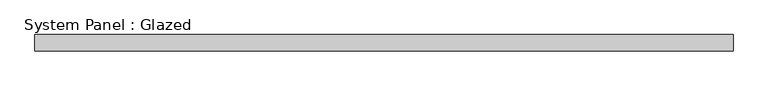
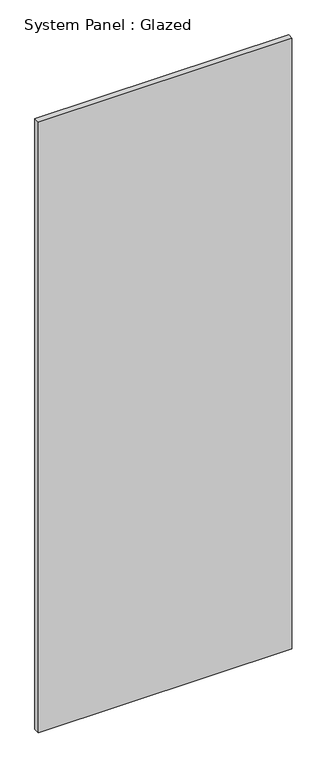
"""IFC4 building model written with IfcOpenShell, lengths in millimetres: plate geometry, System Panel : Glazed."""

from ifc_helpers import new_model, si_unit, origin, origin_with_axes, place, context, project, spatial, polyline, outline, extrude, source, transform, mapped, element, save


def system_panel_glazed_3cde0528(model_context):
    return source(origin(), model_context, "Body", "SweptSolid", [
        extrude(outline(polyline([(550.0000002, 19.05), (-550.0000002, 19.05), (-550.0000002, 44.45), (550.0000002, 44.45), (550.0000002, 19.05)])), origin_with_axes(), (0.0, 0.0, 1.0), 2800.0),
    ])


if __name__ == "__main__":
    model = new_model("IFC4")
    model_context = context("Model", 3, world=origin())
    ifc_project = project(units=[si_unit("LENGTHUNIT", "METRE", prefix="MILLI")], contexts=[model_context])
    site = spatial("IfcSite", under=ifc_project)
    building = spatial("IfcBuilding", under=site)
    placement = place(None, origin())
    system_panel_glazed_shape = system_panel_glazed_3cde0528(model_context)
    element("IfcPlate", 1, ObjectType="System Panel : Glazed", at=placement, inside=building, context=model_context, shape_type="MappedRepresentation", body=[
        mapped(system_panel_glazed_shape, transform((0.0, 0.0, 0.0), x_axis=(1.0, 0.0, 0.0), y_axis=(0.0, 1.0, 0.0), z_axis=(0.0, 0.0, 1.0))),
    ])
    save(model, "model.ifc")
